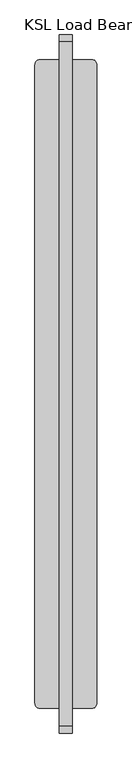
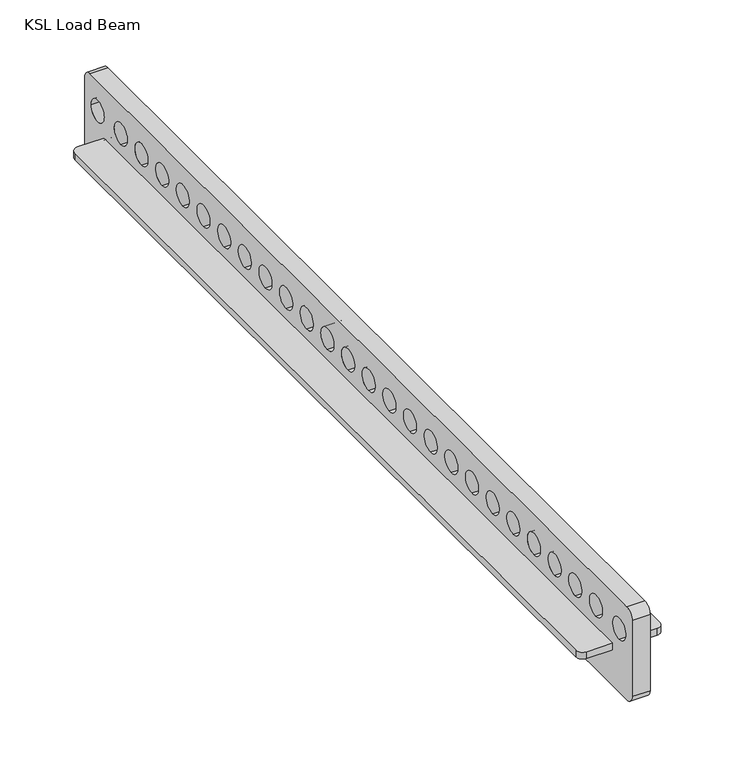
"""IFC4 building model written with IfcOpenShell, lengths in millimetres: proxy geometry, d&b SL-Series KSL Load Beam : KSL Load Beam."""

from ifc_helpers import new_model, si_unit, point, frame, frame_2d, origin, place, context, project, spatial, polyline, circle_curve, trimmed, segment, composite_curve, outline, extrude, source, transform, mapped, element, save


def ksl_load_beam_08e2ac32(model_context):
    return source(origin(), model_context, "Body", "SweptSolid", [
        extrude(outline(composite_curve([segment(polyline([(-351.0, 185.5), (689.0, 185.5)]), True, "CONTINUOUS"), segment(trimmed(circle_curve(frame_2d((689.0, 175.5)), 10.0), [point((689.0, 185.5))], [point((699.0, 175.5))], False, "CARTESIAN"), True, "CONTINUOUS"), segment(polyline([(699.0, 175.5), (699.0, 85.5)]), True, "CONTINUOUS"), segment(trimmed(circle_curve(frame_2d((689.0, 85.5)), 10.0), [point((699.0, 85.5))], [point((689.0, 75.5))], False, "CARTESIAN"), True, "CONTINUOUS"), segment(polyline([(689.0, 75.5), (-351.0, 75.5)]), True, "CONTINUOUS"), segment(trimmed(circle_curve(frame_2d((-351.0, 85.5)), 10.0), [point((-351.0, 75.5))], [point((-361.0, 85.5))], False, "CARTESIAN"), True, "CONTINUOUS"), segment(polyline([(-361.0, 85.5), (-361.0, 175.5)]), True, "CONTINUOUS"), segment(trimmed(circle_curve(frame_2d((-351.0, 175.5)), 10.0), [point((-361.0, 175.5))], [point((-351.0, 185.5))], False, "CARTESIAN"), True, "CONTINUOUS")], self_intersect=False), holes=[composite_curve([segment(trimmed(circle_curve(frame_2d((629.0, 150.5)), 12.5), [point((629.0, 138.0))], [point((629.0, 163.0))], True, "CARTESIAN"), True, "CONTINUOUS"), segment(trimmed(circle_curve(frame_2d((629.0, 150.5)), 12.5), [point((629.0, 163.0))], [point((629.0, 138.0))], True, "CARTESIAN"), True, "CONTINUOUS")], self_intersect=False), composite_curve([segment(trimmed(circle_curve(frame_2d((589.0, 150.5)), 12.5), [point((589.0, 138.0))], [point((589.0, 163.0))], True, "CARTESIAN"), True, "CONTINUOUS"), segment(trimmed(circle_curve(frame_2d((589.0, 150.5)), 12.5), [point((589.0, 163.0))], [point((589.0, 138.0))], True, "CARTESIAN"), True, "CONTINUOUS")], self_intersect=False), composite_curve([segment(trimmed(circle_curve(frame_2d((549.0, 150.5)), 12.5), [point((549.0, 138.0))], [point((549.0, 163.0))], True, "CARTESIAN"), True, "CONTINUOUS"), segment(trimmed(circle_curve(frame_2d((549.0, 150.5)), 12.5), [point((549.0, 163.0))], [point((549.0, 138.0))], True, "CARTESIAN"), True, "CONTINUOUS")], self_intersect=False), composite_curve([segment(trimmed(circle_curve(frame_2d((509.0, 150.5)), 12.5), [point((509.0, 138.0))], [point((509.0, 163.0))], True, "CARTESIAN"), True, "CONTINUOUS"), segment(trimmed(circle_curve(frame_2d((509.0, 150.5)), 12.5), [point((509.0, 163.0))], [point((509.0, 138.0))], True, "CARTESIAN"), True, "CONTINUOUS")], self_intersect=False), composite_curve([segment(trimmed(circle_curve(frame_2d((349.0, 150.5)), 12.5), [point((349.0, 138.0))], [point((349.0, 163.0))], True, "CARTESIAN"), True, "CONTINUOUS"), segment(trimmed(circle_curve(frame_2d((349.0, 150.5)), 12.5), [point((349.0, 163.0))], [point((349.0, 138.0))], True, "CARTESIAN"), True, "CONTINUOUS")], self_intersect=False), composite_curve([segment(trimmed(circle_curve(frame_2d((389.0, 150.5)), 12.5), [point((389.0, 138.0))], [point((389.0, 163.0))], True, "CARTESIAN"), True, "CONTINUOUS"), segment(trimmed(circle_curve(frame_2d((389.0, 150.5)), 12.5), [point((389.0, 163.0))], [point((389.0, 138.0))], True, "CARTESIAN"), True, "CONTINUOUS")], self_intersect=False), composite_curve([segment(trimmed(circle_curve(frame_2d((429.0, 150.5)), 12.5), [point((429.0, 138.0))], [point((429.0, 163.0))], True, "CARTESIAN"), True, "CONTINUOUS"), segment(trimmed(circle_curve(frame_2d((429.0, 150.5)), 12.5), [point((429.0, 163.0))], [point((429.0, 138.0))], True, "CARTESIAN"), True, "CONTINUOUS")], self_intersect=False), composite_curve([segment(trimmed(circle_curve(frame_2d((469.0, 150.5)), 12.5), [point((469.0, 138.0))], [point((469.0, 163.0))], True, "CARTESIAN"), True, "CONTINUOUS"), segment(trimmed(circle_curve(frame_2d((469.0, 150.5)), 12.5), [point((469.0, 163.0))], [point((469.0, 138.0))], True, "CARTESIAN"), True, "CONTINUOUS")], self_intersect=False), composite_curve([segment(trimmed(circle_curve(frame_2d((29.0, 150.5)), 12.5), [point((29.0, 138.0))], [point((29.0, 163.0))], True, "CARTESIAN"), True, "CONTINUOUS"), segment(trimmed(circle_curve(frame_2d((29.0, 150.5)), 12.5), [point((29.0, 163.0))], [point((29.0, 138.0))], True, "CARTESIAN"), True, "CONTINUOUS")], self_intersect=False), composite_curve([segment(trimmed(circle_curve(frame_2d((69.0, 150.5)), 12.5), [point((69.0, 138.0))], [point((69.0, 163.0))], True, "CARTESIAN"), True, "CONTINUOUS"), segment(trimmed(circle_curve(frame_2d((69.0, 150.5)), 12.5), [point((69.0, 163.0))], [point((69.0, 138.0))], True, "CARTESIAN"), True, "CONTINUOUS")], self_intersect=False), composite_curve([segment(trimmed(circle_curve(frame_2d((109.0, 150.5)), 12.5), [point((109.0, 138.0))], [point((109.0, 163.0))], True, "CARTESIAN"), True, "CONTINUOUS"), segment(trimmed(circle_curve(frame_2d((109.0, 150.5)), 12.5), [point((109.0, 163.0))], [point((109.0, 138.0))], True, "CARTESIAN"), True, "CONTINUOUS")], self_intersect=False), composite_curve([segment(trimmed(circle_curve(frame_2d((149.0, 150.5)), 12.5), [point((149.0, 138.0))], [point((149.0, 163.0))], True, "CARTESIAN"), True, "CONTINUOUS"), segment(trimmed(circle_curve(frame_2d((149.0, 150.5)), 12.5), [point((149.0, 163.0))], [point((149.0, 138.0))], True, "CARTESIAN"), True, "CONTINUOUS")], self_intersect=False), composite_curve([segment(trimmed(circle_curve(frame_2d((189.0, 150.5)), 12.5), [point((189.0, 138.0))], [point((189.0, 163.0))], True, "CARTESIAN"), True, "CONTINUOUS"), segment(trimmed(circle_curve(frame_2d((189.0, 150.5)), 12.5), [point((189.0, 163.0))], [point((189.0, 138.0))], True, "CARTESIAN"), True, "CONTINUOUS")], self_intersect=False), composite_curve([segment(trimmed(circle_curve(frame_2d((309.0, 150.5)), 12.5), [point((309.0, 138.0))], [point((309.0, 163.0))], True, "CARTESIAN"), True, "CONTINUOUS"), segment(trimmed(circle_curve(frame_2d((309.0, 150.5)), 12.5), [point((309.0, 163.0))], [point((309.0, 138.0))], True, "CARTESIAN"), True, "CONTINUOUS")], self_intersect=False), composite_curve([segment(trimmed(circle_curve(frame_2d((269.0, 150.5)), 12.5), [point((269.0, 138.0))], [point((269.0, 163.0))], True, "CARTESIAN"), True, "CONTINUOUS"), segment(trimmed(circle_curve(frame_2d((269.0, 150.5)), 12.5), [point((269.0, 163.0))], [point((269.0, 138.0))], True, "CARTESIAN"), True, "CONTINUOUS")], self_intersect=False), composite_curve([segment(trimmed(circle_curve(frame_2d((229.0, 150.5)), 12.5), [point((229.0, 138.0))], [point((229.0, 163.0))], True, "CARTESIAN"), True, "CONTINUOUS"), segment(trimmed(circle_curve(frame_2d((229.0, 150.5)), 12.5), [point((229.0, 163.0))], [point((229.0, 138.0))], True, "CARTESIAN"), True, "CONTINUOUS")], self_intersect=False), composite_curve([segment(trimmed(circle_curve(frame_2d((-291.0, 150.5)), 12.5), [point((-291.0, 138.0))], [point((-291.0, 163.0))], True, "CARTESIAN"), True, "CONTINUOUS"), segment(trimmed(circle_curve(frame_2d((-291.0, 150.5)), 12.5), [point((-291.0, 163.0))], [point((-291.0, 138.0))], True, "CARTESIAN"), True, "CONTINUOUS")], self_intersect=False), composite_curve([segment(trimmed(circle_curve(frame_2d((-336.0, 150.5)), 12.5), [point((-336.0, 138.0))], [point((-336.0, 163.0))], True, "CARTESIAN"), True, "CONTINUOUS"), segment(trimmed(circle_curve(frame_2d((-336.0, 150.5)), 12.5), [point((-336.0, 163.0))], [point((-336.0, 138.0))], True, "CARTESIAN"), True, "CONTINUOUS")], self_intersect=False), composite_curve([segment(trimmed(circle_curve(frame_2d((-11.0, 150.5)), 12.5), [point((-11.0, 138.0))], [point((-11.0, 163.0))], True, "CARTESIAN"), True, "CONTINUOUS"), segment(trimmed(circle_curve(frame_2d((-11.0, 150.5)), 12.5), [point((-11.0, 163.0))], [point((-11.0, 138.0))], True, "CARTESIAN"), True, "CONTINUOUS")], self_intersect=False), composite_curve([segment(trimmed(circle_curve(frame_2d((-51.0, 150.5)), 12.5), [point((-51.0, 138.0))], [point((-51.0, 163.0))], True, "CARTESIAN"), True, "CONTINUOUS"), segment(trimmed(circle_curve(frame_2d((-51.0, 150.5)), 12.5), [point((-51.0, 163.0))], [point((-51.0, 138.0))], True, "CARTESIAN"), True, "CONTINUOUS")], self_intersect=False), composite_curve([segment(trimmed(circle_curve(frame_2d((-91.0, 150.5)), 12.5), [point((-91.0, 138.0))], [point((-91.0, 163.0))], True, "CARTESIAN"), True, "CONTINUOUS"), segment(trimmed(circle_curve(frame_2d((-91.0, 150.5)), 12.5), [point((-91.0, 163.0))], [point((-91.0, 138.0))], True, "CARTESIAN"), True, "CONTINUOUS")], self_intersect=False), composite_curve([segment(trimmed(circle_curve(frame_2d((-131.0, 150.5)), 12.5), [point((-131.0, 138.0))], [point((-131.0, 163.0))], True, "CARTESIAN"), True, "CONTINUOUS"), segment(trimmed(circle_curve(frame_2d((-131.0, 150.5)), 12.5), [point((-131.0, 163.0))], [point((-131.0, 138.0))], True, "CARTESIAN"), True, "CONTINUOUS")], self_intersect=False), composite_curve([segment(trimmed(circle_curve(frame_2d((-251.0, 150.5)), 12.5), [point((-251.0, 138.0))], [point((-251.0, 163.0))], True, "CARTESIAN"), True, "CONTINUOUS"), segment(trimmed(circle_curve(frame_2d((-251.0, 150.5)), 12.5), [point((-251.0, 163.0))], [point((-251.0, 138.0))], True, "CARTESIAN"), True, "CONTINUOUS")], self_intersect=False), composite_curve([segment(trimmed(circle_curve(frame_2d((-211.0, 150.5)), 12.5), [point((-211.0, 138.0))], [point((-211.0, 163.0))], True, "CARTESIAN"), True, "CONTINUOUS"), segment(trimmed(circle_curve(frame_2d((-211.0, 150.5)), 12.5), [point((-211.0, 163.0))], [point((-211.0, 138.0))], True, "CARTESIAN"), True, "CONTINUOUS")], self_intersect=False), composite_curve([segment(trimmed(circle_curve(frame_2d((-171.0, 150.5)), 12.5), [point((-171.0, 138.0))], [point((-171.0, 163.0))], True, "CARTESIAN"), True, "CONTINUOUS"), segment(trimmed(circle_curve(frame_2d((-171.0, 150.5)), 12.5), [point((-171.0, 163.0))], [point((-171.0, 138.0))], True, "CARTESIAN"), True, "CONTINUOUS")], self_intersect=False), composite_curve([segment(trimmed(circle_curve(frame_2d((-280.0, 95.5)), 8.2930381), [point((-288.2930381, 95.5))], [point((-271.7069619, 95.5))], True, "CARTESIAN"), True, "CONTINUOUS"), segment(trimmed(circle_curve(frame_2d((-280.0, 95.5)), 8.2930381), [point((-271.7069619, 95.5))], [point((-288.2930381, 95.5))], True, "CARTESIAN"), True, "CONTINUOUS")], self_intersect=False), composite_curve([segment(trimmed(circle_curve(frame_2d((674.0, 150.5)), 12.5), [point((686.5, 150.5))], [point((661.5, 150.5))], True, "CARTESIAN"), True, "CONTINUOUS"), segment(trimmed(circle_curve(frame_2d((674.0, 150.5)), 12.5), [point((661.5, 150.5))], [point((686.5, 150.5))], True, "CARTESIAN"), True, "CONTINUOUS")], self_intersect=False), composite_curve([segment(trimmed(circle_curve(frame_2d((44.0, 95.5)), 8.5), [point((52.5, 95.5))], [point((35.5, 95.5))], True, "CARTESIAN"), True, "CONTINUOUS"), segment(trimmed(circle_curve(frame_2d((44.0, 95.5)), 8.5), [point((35.5, 95.5))], [point((52.5, 95.5))], True, "CARTESIAN"), True, "CONTINUOUS")], self_intersect=False), composite_curve([segment(trimmed(circle_curve(frame_2d((223.0, 95.5)), 8.5), [point((231.5, 95.5))], [point((214.5, 95.5))], True, "CARTESIAN"), True, "CONTINUOUS"), segment(trimmed(circle_curve(frame_2d((223.0, 95.5)), 8.5), [point((214.5, 95.5))], [point((231.5, 95.5))], True, "CARTESIAN"), True, "CONTINUOUS")], self_intersect=False), composite_curve([segment(trimmed(circle_curve(frame_2d((461.0, 95.5)), 10.5), [point((471.5, 95.5))], [point((450.5, 95.5))], True, "CARTESIAN"), True, "CONTINUOUS"), segment(trimmed(circle_curve(frame_2d((461.0, 95.5)), 10.5), [point((450.5, 95.5))], [point((471.5, 95.5))], True, "CARTESIAN"), True, "CONTINUOUS")], self_intersect=False), composite_curve([segment(trimmed(circle_curve(frame_2d((674.0, 97.0)), 12.5), [point((686.5, 97.0))], [point((661.5, 97.0))], True, "CARTESIAN"), True, "CONTINUOUS"), segment(trimmed(circle_curve(frame_2d((674.0, 97.0)), 12.5), [point((661.5, 97.0))], [point((686.5, 97.0))], True, "CARTESIAN"), True, "CONTINUOUS")], self_intersect=False), composite_curve([segment(trimmed(circle_curve(frame_2d((616.5, 95.5)), 10.5), [point((627.0, 95.5))], [point((606.0, 95.5))], True, "CARTESIAN"), True, "CONTINUOUS"), segment(trimmed(circle_curve(frame_2d((616.5, 95.5)), 10.5), [point((606.0, 95.5))], [point((627.0, 95.5))], True, "CARTESIAN"), True, "CONTINUOUS")], self_intersect=False), composite_curve([segment(trimmed(circle_curve(frame_2d((547.0, 95.5)), 8.5), [point((555.5, 95.5))], [point((538.5, 95.5))], True, "CARTESIAN"), True, "CONTINUOUS"), segment(trimmed(circle_curve(frame_2d((547.0, 95.5)), 8.5), [point((538.5, 95.5))], [point((555.5, 95.5))], True, "CARTESIAN"), True, "CONTINUOUS")], self_intersect=False)]), frame((-10.0, 0.0, 0.0), z_axis=(1.0, 0.0, 0.0), x_axis=(0.0, 1.0, 0.0)), (0.0, 0.0, 1.0), 20.0),
        extrude(outline(composite_curve([segment(trimmed(circle_curve(frame_2d((39.3, -315.8)), 7.7), [point((47.0, -315.8))], [point((39.3, -323.5))], False, "CARTESIAN"), True, "CONTINUOUS"), segment(polyline([(39.3, -323.5), (10.0, -323.5), (10.0, 661.5), (39.3, 661.5)]), True, "CONTINUOUS"), segment(trimmed(circle_curve(frame_2d((39.3, 653.8)), 7.7), [point((39.3, 661.5))], [point((47.0, 653.8))], False, "CARTESIAN"), True, "CONTINUOUS"), segment(polyline([(47.0, 653.8), (47.0, -315.8)]), True, "CONTINUOUS")], self_intersect=False)), frame((0.0, 0.0, 118.0), z_axis=(0.0, 0.0, 1.0), x_axis=(1.0, 0.0, 0.0)), (0.0, 0.0, 1.0), 8.0),
        extrude(outline(composite_curve([segment(trimmed(circle_curve(frame_2d((-39.3, -315.8)), 7.7), [point((-39.3, -323.5))], [point((-47.0, -315.8))], False, "CARTESIAN"), True, "CONTINUOUS"), segment(polyline([(-47.0, -315.8), (-47.0, 653.8)]), True, "CONTINUOUS"), segment(trimmed(circle_curve(frame_2d((-39.3, 653.8)), 7.7), [point((-47.0, 653.8))], [point((-39.3, 661.5))], False, "CARTESIAN"), True, "CONTINUOUS"), segment(polyline([(-39.3, 661.5), (-10.0, 661.5), (-10.0, -323.5), (-39.3, -323.5)]), True, "CONTINUOUS")], self_intersect=False)), frame((0.0, 0.0, 118.0), z_axis=(0.0, 0.0, 1.0), x_axis=(1.0, 0.0, 0.0)), (0.0, 0.0, 1.0), 8.0),
    ])


if __name__ == "__main__":
    model = new_model("IFC4")
    model_context = context("Model", 3, world=origin())
    ifc_project = project(units=[si_unit("LENGTHUNIT", "METRE", prefix="MILLI")], contexts=[model_context])
    site = spatial("IfcSite", under=ifc_project)
    building = spatial("IfcBuilding", under=site)
    placement = place(None, origin())
    ksl_load_beam_shape = ksl_load_beam_08e2ac32(model_context)
    element("IfcBuildingElementProxy", 1, Name="d&b SL-Series KSL Load Beam : KSL Load Beam", ObjectType="d&b SL-Series KSL Load Beam : KSL Load Beam", at=placement, inside=building, context=model_context, shape_type="MappedRepresentation", body=[
        mapped(ksl_load_beam_shape, transform((0.0, 0.0, 0.0), x_axis=(1.0, 0.0, 0.0), y_axis=(0.0, 1.0, 0.0), z_axis=(0.0, 0.0, 1.0))),
    ])
    save(model, "model.ifc")
